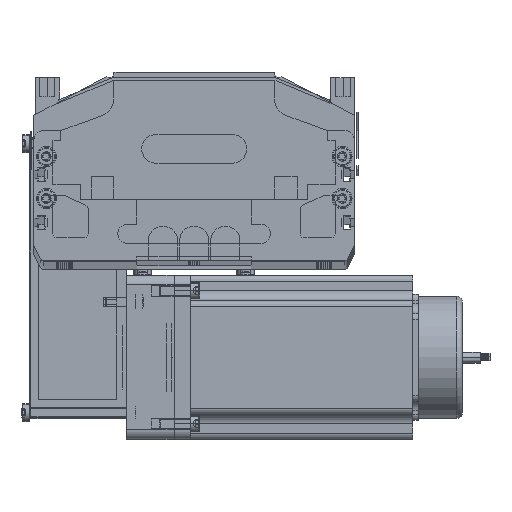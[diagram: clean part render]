
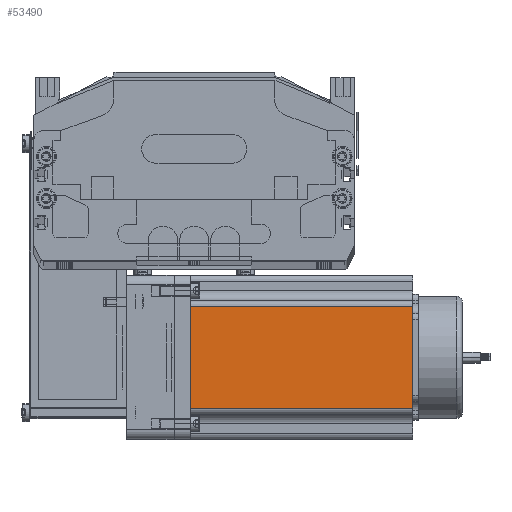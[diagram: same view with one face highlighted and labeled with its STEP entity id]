
A CAD part, top view. The second image highlights one B-rep face of the part: STEP entity #53490.
In plain terms, the highlighted planar face has unit normal (0, 0, 1) as drawn and (0, -1, 0) by its records, which use the part's own axes.
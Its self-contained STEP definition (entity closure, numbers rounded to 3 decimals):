
#589 = CARTESIAN_POINT ( 'NONE',  ( 16.16, 0., 116.5 ) ) ;
#618 = LINE ( 'NONE', #589, #1598 ) ;
#872 = CARTESIAN_POINT ( 'NONE',  ( 69.74, 0., 0. ) ) ;
#1578 = DIRECTION ( 'NONE',  ( 0., 0., -1. ) ) ;
#1598 = VECTOR ( 'NONE', #1578, 1000. ) ;
#2173 = AXIS2_PLACEMENT_3D ( 'NONE', #2619, #2660, #2627 ) ;
#2497 = PLANE ( 'NONE',  #2173 ) ;
#2619 = CARTESIAN_POINT ( 'NONE',  ( 0., 0., 116.5 ) ) ;
#2627 = DIRECTION ( 'NONE',  ( 0., 0., 1. ) ) ;
#2660 = DIRECTION ( 'NONE',  ( 0., 1., 0. ) ) ;
#4169 = CARTESIAN_POINT ( 'NONE',  ( 16.16, 0., 0. ) ) ;
#4352 = CARTESIAN_POINT ( 'NONE',  ( 16.16, 0., 116.5 ) ) ;
#4356 = FACE_OUTER_BOUND ( 'NONE', #53524, .T. ) ;
#4544 = CARTESIAN_POINT ( 'NONE',  ( 69.74, 0., 116.5 ) ) ;
#4896 = CARTESIAN_POINT ( 'NONE',  ( 69.74, 0., 116.5 ) ) ;
#4897 = LINE ( 'NONE', #4896, #4927 ) ;
#4927 = VECTOR ( 'NONE', #5018, 1000. ) ;
#5018 = DIRECTION ( 'NONE',  ( 0., 0., 1. ) ) ;
#5574 = DIRECTION ( 'NONE',  ( 1., 0., 0. ) ) ;
#5575 = LINE ( 'NONE', #5579, #5576 ) ;
#5576 = VECTOR ( 'NONE', #5574, 1000. ) ;
#5579 = CARTESIAN_POINT ( 'NONE',  ( 0., 0., 0. ) ) ;
#6766 = DIRECTION ( 'NONE',  ( 1., 0., 0. ) ) ;
#6789 = VECTOR ( 'NONE', #6766, 1000. ) ;
#6791 = CARTESIAN_POINT ( 'NONE',  ( 0., 0., 116.5 ) ) ;
#6792 = LINE ( 'NONE', #6791, #6789 ) ;
#53485 = EDGE_CURVE ( 'NONE', #53492, #53488, #618, .T. ) ;
#53488 = VERTEX_POINT ( 'NONE', #4169 ) ;
#53490 = ADVANCED_FACE ( 'NONE', ( #4356 ), #2497, .F. ) ;
#53491 = ORIENTED_EDGE ( 'NONE', *, *, #53594, .F. ) ;
#53492 = VERTEX_POINT ( 'NONE', #4352 ) ;
#53493 = EDGE_CURVE ( 'NONE', #53496, #53495, #4897, .T. ) ;
#53495 = VERTEX_POINT ( 'NONE', #4544 ) ;
#53496 = VERTEX_POINT ( 'NONE', #872 ) ;
#53518 = ORIENTED_EDGE ( 'NONE', *, *, #53537, .T. ) ;
#53521 = ORIENTED_EDGE ( 'NONE', *, *, #53493, .T. ) ;
#53524 = EDGE_LOOP ( 'NONE', ( #53518, #53521, #53491, #53598 ) ) ;
#53537 = EDGE_CURVE ( 'NONE', #53488, #53496, #5575, .T. ) ;
#53594 = EDGE_CURVE ( 'NONE', #53492, #53495, #6792, .T. ) ;
#53598 = ORIENTED_EDGE ( 'NONE', *, *, #53485, .T. ) ;
